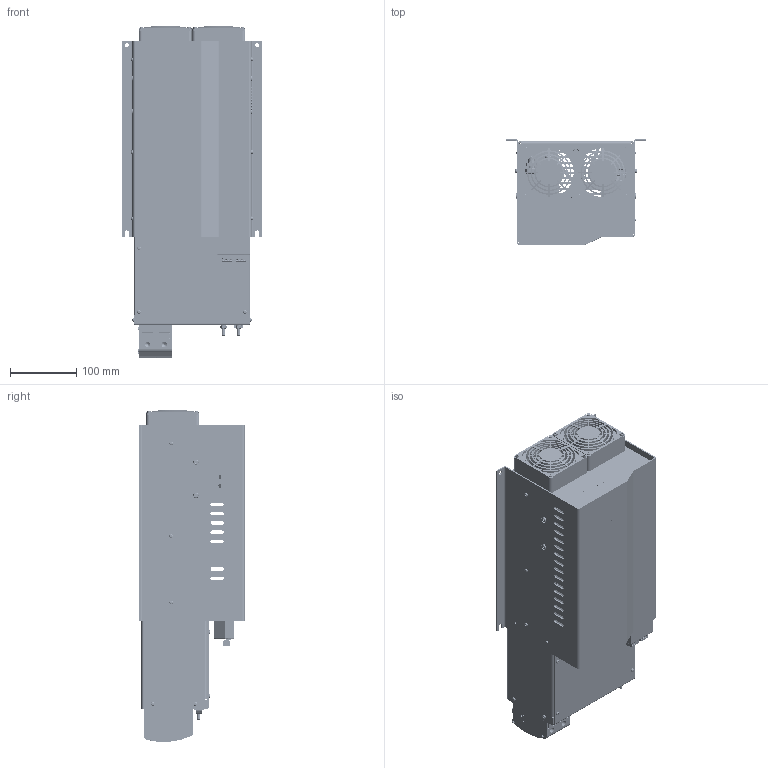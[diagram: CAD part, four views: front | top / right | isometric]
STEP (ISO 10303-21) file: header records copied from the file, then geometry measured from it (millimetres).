
FILE_DESCRIPTION(/* description */ (''),/* implementation_level */ '2;1');
FILE_NAME(/* name */ 'EPC 5k5 648 CAN simple',/* time_stamp */ '2021-06-25T12:07:55+02:00',/* author */ ('Luis JimÃ©nez'),/* organization */ ('epic power'),/* preprocessor_version */ 'ST-DEVELOPER v16.7',/* originating_system */ 'DEX',/* authorisation */ $);
FILE_SCHEMA (('AUTOMOTIVE_DESIGN {1 0 10303 214 3 1 1}'));
Products named in the file (199): EPC 5k5 648 CAN simple; Tapa; FanGuard 80 Qualtek 09081-G; Ventilador 80x80 12V; Base_6kW; Torx_M4_10_iso7045; Apli_10070_EPC_5k5_648; 691361300003_; DIN7985_M3X8mm_TORX; Marcador UW-95-POT_pxc_0827463_00_ZB-16-CUS_3D; Dischargue time; 691361300004_; FHS-M5-18-PennEngineering-06-02-2017; pxc_1713242_00_UW-95-POT-S_3D; DIN125 M5; 691361300008; DIN912 M2.5X6; Light_pipe_x8_5151063f; Hexagon nut ISO 4032 (DIN 934) - M5; 1703454_01; DIN125 M4; Pegatina_conectores_EPC; Pegatina High Side EPC 5k5; STEP-691340500006-rev1; STEP-691364300008-rev1; 1913578_02; Bottom_6kW; Pegatina tierra_2; Assembly_Can_Enclosure_+_PCB; 20170701_07.01.08.000_oa_0; Board07.01.08.000_0; TP2807.01.08.000_0_oa_1; 989849312_0_oa_2; Cylinder_1; TP307.01.08.000_0_oa_3; 989849312_0_oa_4; TP2707.01.08.000_0_oa_5; 989849312_0_oa_6; TP2607.01.08.000_0_oa_7; 989849824_0_oa_8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
Assembly tree (340 placements, depth 7):
  EPC 5k5 648 CAN simple
    Tapa
    FanGuard 80 Qualtek 09081-G  x2
    Ventilador 80x80 12V  x2
    Base_6kW
    Torx_M4_10_iso7045  x4
    Apli_10070_EPC_5k5_648
    691361300003_
    DIN7985_M3X8mm_TORX  x17
    Marcador UW-95-POT_pxc_0827463_00_ZB-16-CUS_3D
    Dischargue time
    691361300004_
    FHS-M5-18-PennEngineering-06-02-2017  x3
    pxc_1713242_00_UW-95-POT-S_3D  x2
    DIN125 M5
    691361300008
    DIN912 M2.5X6  x2
    Light_pipe_x8_5151063f
    Hexagon nut ISO 4032 (DIN 934) - M5  x3
    1703454_01
    DIN125 M4  x2
    Pegatina_conectores_EPC
    Pegatina High Side EPC 5k5
    STEP-691340500006-rev1
    STEP-691364300008-rev1
    1913578_02
    Bottom_6kW
    Pegatina tierra_2  x2
    Assembly_Can_Enclosure_+_PCB
      20170701_07.01.08.000_oa_0
        Board07.01.08.000_0
        TP2807.01.08.000_0_oa_1
          989849312_0_oa_2
            Cylinder_1
        TP307.01.08.000_0_oa_3
          989849312_0_oa_4
            Cylinder_1
        TP2707.01.08.000_0_oa_5
          989849312_0_oa_6
            Cylinder_1
        TP2607.01.08.000_0_oa_7
          989849824_0_oa_8
            Cylinder_2
        TP2507.01.08.000_0_oa_9
          989849824_0_oa_10
            Cylinder_2
        TP2407.01.08.000_0_oa_11
          989849824_0_oa_12
            Cylinder_2
        TP2307.01.08.000_0_oa_13
          989849824_0_oa_14
            Cylinder_2
        TP2207.01.08.000_0_oa_15
          989849824_0_oa_16
            Cylinder_2
        TP2107.01.08.000_0_oa_17
          989849824_0_oa_18
            Cylinder_2
        TP2007.01.08.000_0_oa_19
          989849824_0_oa_20
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Bounding box: 211 x 159.01 x 500.86 mm (x, y, z)
Volume: 1194389.3 mm3; surface area: 1014670.9 mm2
Topology: 350 solids, 387 shells, 28507 faces, 73687 edges, 46353 vertices
Faces by surface type: plane 16107, bspline 5925, cylinder 5394, cone 503, torus 302, sphere 276
Full cylindrical faces by diameter (mm): 0.1 x92, 0.2 x28, 0.457 x1, 0.75 x1, 1 x15, 1.2 x24, 1.27 x4, 1.3 x8, 1.35 x31, 1.5 x6, 1.9 x93, 2 x31, 2.1 x8, 2.4 x4, 2.459 x29, 2.489 x8, 2.5 x12, 2.6 x2, 2.75 x6, 2.8 x2, 2.9 x68, 2.95 x6, 3 x26, 3.2 x4, 3.261 x16, 3.3 x2, 3.35 x2, 3.5 x28, 3.75 x6, 3.8 x14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
Entity records: 575889 total; most frequent: CARTESIAN_POINT 119562, ORIENTED_EDGE 81166, DIRECTION 74815, EDGE_CURVE 40583, LINE 33825, VECTOR 33825, VERTEX_POINT 26764, AXIS2_PLACEMENT_3D 20495
